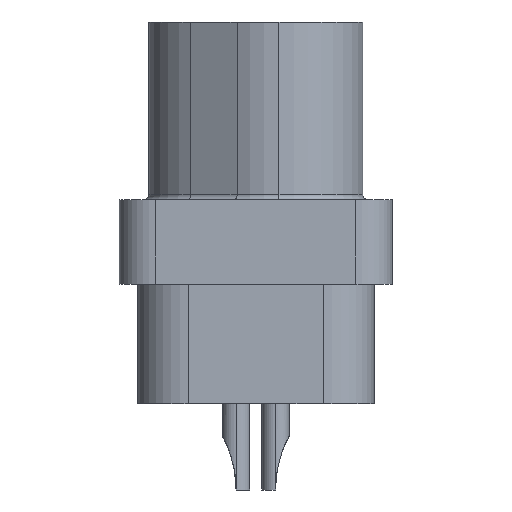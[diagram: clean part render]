
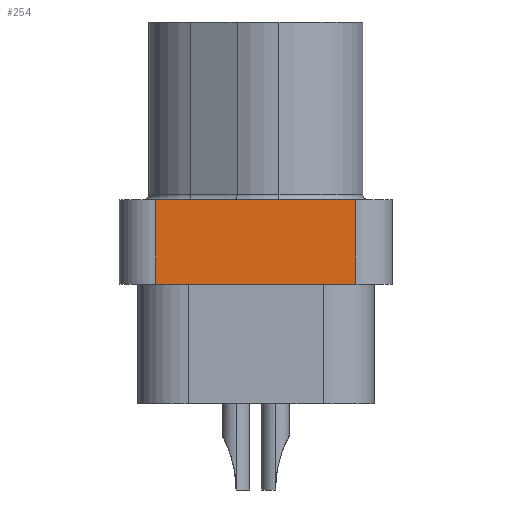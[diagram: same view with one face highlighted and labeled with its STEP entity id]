
A CAD part, left-side view. The second image highlights one B-rep face of the part: STEP entity #254.
In plain terms, the highlighted planar face has unit normal (-1, 0, 0).
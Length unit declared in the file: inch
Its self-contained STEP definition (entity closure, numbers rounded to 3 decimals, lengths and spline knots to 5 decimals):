
#254 = ADVANCED_FACE ( 'NONE', ( #5326 ), #612, .T. ) ;
#612 = PLANE ( 'NONE',  #6057 ) ;
#615 = CARTESIAN_POINT ( 'NONE',  ( -0.3875, -0.11, 0.04 ) ) ;
#616 = DIRECTION ( 'NONE',  ( -1., 0., 0. ) ) ;
#617 = DIRECTION ( 'NONE',  ( 0., 0., 1. ) ) ;
#1371 = EDGE_CURVE ( 'NONE', #1755, #1758, #8581, .T. ) ;
#1384 = EDGE_CURVE ( 'NONE', #1760, #1765, #8601, .T. ) ;
#1385 = EDGE_CURVE ( 'NONE', #1755, #1760, #8602, .T. ) ;
#1386 = EDGE_CURVE ( 'NONE', #1758, #1765, #8605, .T. ) ;
#1755 = VERTEX_POINT ( 'NONE', #11327 ) ;
#1758 = VERTEX_POINT ( 'NONE', #11330 ) ;
#1760 = VERTEX_POINT ( 'NONE', #11332 ) ;
#1765 = VERTEX_POINT ( 'NONE', #11337 ) ;
#2635 = ORIENTED_EDGE ( 'NONE', *, *, #1384, .F. ) ;
#2636 = ORIENTED_EDGE ( 'NONE', *, *, #1385, .F. ) ;
#2637 = ORIENTED_EDGE ( 'NONE', *, *, #1371, .T. ) ;
#2638 = ORIENTED_EDGE ( 'NONE', *, *, #1386, .T. ) ;
#4736 = EDGE_LOOP ( 'NONE', ( #2635, #2636, #2637, #2638 ) ) ;
#5326 = FACE_OUTER_BOUND ( 'NONE', #4736, .T. ) ;
#6057 = AXIS2_PLACEMENT_3D ( 'NONE', #615, #616, #617 ) ;
#8581 = LINE ( 'NONE', #10712, #8587 ) ;
#8587 = VECTOR ( 'NONE', #10708, 39.37008 ) ;
#8601 = LINE ( 'NONE', #10749, #8604 ) ;
#8602 = LINE ( 'NONE', #10748, #8606 ) ;
#8604 = VECTOR ( 'NONE', #10732, 39.37008 ) ;
#8605 = LINE ( 'NONE', #10755, #8608 ) ;
#8606 = VECTOR ( 'NONE', #10754, 39.37008 ) ;
#8608 = VECTOR ( 'NONE', #10756, 39.37008 ) ;
#10708 = DIRECTION ( 'NONE',  ( 0., 1., 0. ) ) ;
#10712 = CARTESIAN_POINT ( 'NONE',  ( -0.3875, -0.11, 0.04 ) ) ;
#10732 = DIRECTION ( 'NONE',  ( 0., 1., 0. ) ) ;
#10748 = CARTESIAN_POINT ( 'NONE',  ( -0.3875, -0.11, 0.04 ) ) ;
#10749 = CARTESIAN_POINT ( 'NONE',  ( -0.3875, -0.11, -0.053 ) ) ;
#10754 = DIRECTION ( 'NONE',  ( 0., 0., -1. ) ) ;
#10755 = CARTESIAN_POINT ( 'NONE',  ( -0.3875, 0.11, 0.04 ) ) ;
#10756 = DIRECTION ( 'NONE',  ( 0., 0., -1. ) ) ;
#11327 = CARTESIAN_POINT ( 'NONE',  ( -0.3875, -0.11, 0.04 ) ) ;
#11330 = CARTESIAN_POINT ( 'NONE',  ( -0.3875, 0.11, 0.04 ) ) ;
#11332 = CARTESIAN_POINT ( 'NONE',  ( -0.3875, -0.11, -0.053 ) ) ;
#11337 = CARTESIAN_POINT ( 'NONE',  ( -0.3875, 0.11, -0.053 ) ) ;
